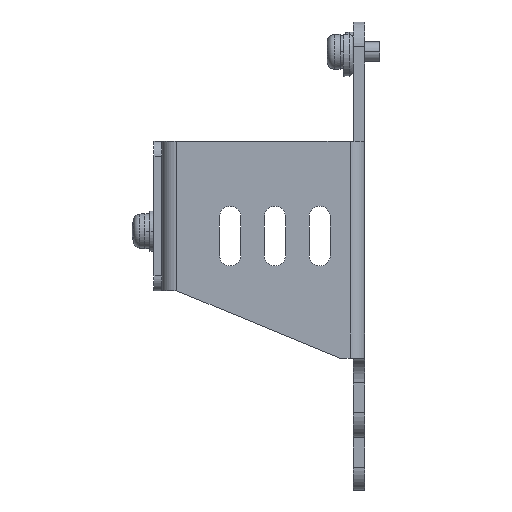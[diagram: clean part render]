
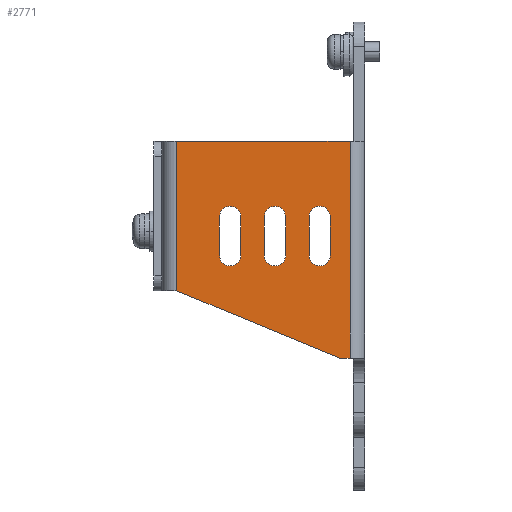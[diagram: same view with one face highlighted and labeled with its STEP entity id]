
A CAD part, left-side view. The second image highlights one B-rep face of the part: STEP entity #2771.
In plain terms, the highlighted planar face has unit normal (-1, 0, 0).
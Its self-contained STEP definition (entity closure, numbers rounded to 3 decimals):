
#509=DIRECTION('',(0.,0.,1.));
#510=VECTOR('',#509,43.5);
#511=CARTESIAN_POINT('',(-68.,2.9,26.5));
#512=LINE('',#511,#510);
#527=DIRECTION('',(0.,-1.,0.));
#528=VECTOR('',#527,2.1);
#529=CARTESIAN_POINT('',(-68.,5.,26.5));
#530=LINE('',#529,#528);
#531=DIRECTION('',(0.,-0.924,-0.382));
#532=VECTOR('',#531,35.377);
#533=CARTESIAN_POINT('',(-68.,37.7,40.));
#534=LINE('',#533,#532);
#535=DIRECTION('',(0.,1.,0.));
#536=VECTOR('',#535,0.1);
#537=CARTESIAN_POINT('',(-68.,37.7,40.));
#538=LINE('',#537,#536);
#539=CARTESIAN_POINT('',(-68.,9.,47.15));
#540=DIRECTION('',(-1.,0.,0.));
#541=DIRECTION('',(0.,1.,0.));
#542=AXIS2_PLACEMENT_3D('',#539,#540,#541);
#544=DIRECTION('',(0.,0.,-1.));
#545=VECTOR('',#544,7.7);
#546=CARTESIAN_POINT('',(-68.,6.85,54.85));
#547=LINE('',#546,#545);
#548=CARTESIAN_POINT('',(-68.,9.,54.85));
#549=DIRECTION('',(-1.,0.,0.));
#550=DIRECTION('',(0.,-1.,0.));
#551=AXIS2_PLACEMENT_3D('',#548,#549,#550);
#553=DIRECTION('',(0.,0.,1.));
#554=VECTOR('',#553,7.7);
#555=CARTESIAN_POINT('',(-68.,11.15,47.15));
#556=LINE('',#555,#554);
#557=CARTESIAN_POINT('',(-68.,18.,47.15));
#558=DIRECTION('',(-1.,0.,0.));
#559=DIRECTION('',(0.,1.,0.));
#560=AXIS2_PLACEMENT_3D('',#557,#558,#559);
#562=DIRECTION('',(0.,0.,-1.));
#563=VECTOR('',#562,7.7);
#564=CARTESIAN_POINT('',(-68.,15.85,54.85));
#565=LINE('',#564,#563);
#566=CARTESIAN_POINT('',(-68.,18.,54.85));
#567=DIRECTION('',(-1.,0.,0.));
#568=DIRECTION('',(0.,-1.,0.));
#569=AXIS2_PLACEMENT_3D('',#566,#567,#568);
#571=DIRECTION('',(0.,0.,1.));
#572=VECTOR('',#571,7.7);
#573=CARTESIAN_POINT('',(-68.,20.15,47.15));
#574=LINE('',#573,#572);
#575=CARTESIAN_POINT('',(-68.,27.,47.15));
#576=DIRECTION('',(-1.,0.,0.));
#577=DIRECTION('',(0.,1.,0.));
#578=AXIS2_PLACEMENT_3D('',#575,#576,#577);
#580=DIRECTION('',(0.,0.,-1.));
#581=VECTOR('',#580,7.7);
#582=CARTESIAN_POINT('',(-68.,24.85,54.85));
#583=LINE('',#582,#581);
#584=CARTESIAN_POINT('',(-68.,27.,54.85));
#585=DIRECTION('',(-1.,0.,0.));
#586=DIRECTION('',(0.,-1.,0.));
#587=AXIS2_PLACEMENT_3D('',#584,#585,#586);
#589=DIRECTION('',(0.,0.,1.));
#590=VECTOR('',#589,7.7);
#591=CARTESIAN_POINT('',(-68.,29.15,47.15));
#592=LINE('',#591,#590);
#593=DIRECTION('',(0.,1.,0.));
#594=VECTOR('',#593,34.9);
#595=CARTESIAN_POINT('',(-68.,2.9,70.));
#596=LINE('',#595,#594);
#618=DIRECTION('',(0.,0.,1.));
#619=VECTOR('',#618,30.);
#620=CARTESIAN_POINT('',(-68.,37.8,40.));
#621=LINE('',#620,#619);
#1805=CARTESIAN_POINT('',(-68.,37.7,40.));
#1807=VERTEX_POINT('',#1805);
#1849=CARTESIAN_POINT('',(-68.,11.15,47.15));
#1850=CARTESIAN_POINT('',(-68.,6.85,47.15));
#1851=VERTEX_POINT('',#1849);
#1852=VERTEX_POINT('',#1850);
#1853=CARTESIAN_POINT('',(-68.,11.15,54.85));
#1854=VERTEX_POINT('',#1853);
#1855=CARTESIAN_POINT('',(-68.,6.85,54.85));
#1856=VERTEX_POINT('',#1855);
#1865=CARTESIAN_POINT('',(-68.,20.15,47.15));
#1866=CARTESIAN_POINT('',(-68.,15.85,47.15));
#1867=VERTEX_POINT('',#1865);
#1868=VERTEX_POINT('',#1866);
#1869=CARTESIAN_POINT('',(-68.,20.15,54.85));
#1870=VERTEX_POINT('',#1869);
#1871=CARTESIAN_POINT('',(-68.,15.85,54.85));
#1872=VERTEX_POINT('',#1871);
#1881=CARTESIAN_POINT('',(-68.,5.,26.5));
#1882=CARTESIAN_POINT('',(-68.,2.9,26.5));
#1883=VERTEX_POINT('',#1881);
#1884=VERTEX_POINT('',#1882);
#1889=CARTESIAN_POINT('',(-68.,2.9,70.));
#1890=VERTEX_POINT('',#1889);
#1901=CARTESIAN_POINT('',(-68.,29.15,47.15));
#1902=CARTESIAN_POINT('',(-68.,24.85,47.15));
#1903=VERTEX_POINT('',#1901);
#1904=VERTEX_POINT('',#1902);
#1905=CARTESIAN_POINT('',(-68.,29.15,54.85));
#1906=VERTEX_POINT('',#1905);
#1907=CARTESIAN_POINT('',(-68.,24.85,54.85));
#1908=VERTEX_POINT('',#1907);
#1977=CARTESIAN_POINT('',(-68.,37.8,70.));
#1978=VERTEX_POINT('',#1977);
#1979=CARTESIAN_POINT('',(-68.,37.8,40.));
#1980=VERTEX_POINT('',#1979);
#2723=CARTESIAN_POINT('',(-68.,0.,42.538));
#2724=DIRECTION('',(-1.,0.,0.));
#2725=DIRECTION('',(0.,0.,1.));
#2726=AXIS2_PLACEMENT_3D('',#2723,#2724,#2725);
#2727=PLANE('',#2726);
#2729=ORIENTED_EDGE('',*,*,#2728,.F.);
#2730=ORIENTED_EDGE('',*,*,#2714,.F.);
#2732=ORIENTED_EDGE('',*,*,#2731,.F.);
#2734=ORIENTED_EDGE('',*,*,#2733,.F.);
#2736=ORIENTED_EDGE('',*,*,#2735,.T.);
#2738=ORIENTED_EDGE('',*,*,#2737,.T.);
#2739=EDGE_LOOP('',(#2729,#2730,#2732,#2734,#2736,#2738));
#2740=FACE_OUTER_BOUND('',#2739,.F.);
#2742=ORIENTED_EDGE('',*,*,#2741,.T.);
#2744=ORIENTED_EDGE('',*,*,#2743,.F.);
#2746=ORIENTED_EDGE('',*,*,#2745,.T.);
#2748=ORIENTED_EDGE('',*,*,#2747,.F.);
#2749=EDGE_LOOP('',(#2742,#2744,#2746,#2748));
#2750=FACE_BOUND('',#2749,.F.);
#2752=ORIENTED_EDGE('',*,*,#2751,.T.);
#2754=ORIENTED_EDGE('',*,*,#2753,.F.);
#2756=ORIENTED_EDGE('',*,*,#2755,.T.);
#2758=ORIENTED_EDGE('',*,*,#2757,.F.);
#2759=EDGE_LOOP('',(#2752,#2754,#2756,#2758));
#2760=FACE_BOUND('',#2759,.F.);
#2762=ORIENTED_EDGE('',*,*,#2761,.T.);
#2764=ORIENTED_EDGE('',*,*,#2763,.F.);
#2766=ORIENTED_EDGE('',*,*,#2765,.T.);
#2768=ORIENTED_EDGE('',*,*,#2767,.F.);
#2769=EDGE_LOOP('',(#2762,#2764,#2766,#2768));
#2770=FACE_BOUND('',#2769,.F.);
#2771=ADVANCED_FACE('',(#2740,#2750,#2760,#2770),#2727,.T.);
#543=CIRCLE('',#542,2.15);
#552=CIRCLE('',#551,2.15);
#561=CIRCLE('',#560,2.15);
#570=CIRCLE('',#569,2.15);
#579=CIRCLE('',#578,2.15);
#588=CIRCLE('',#587,2.15);
#2714=EDGE_CURVE('',#1884,#1890,#512,.T.);
#2728=EDGE_CURVE('',#1890,#1978,#596,.T.);
#2731=EDGE_CURVE('',#1883,#1884,#530,.T.);
#2733=EDGE_CURVE('',#1807,#1883,#534,.T.);
#2735=EDGE_CURVE('',#1807,#1980,#538,.T.);
#2737=EDGE_CURVE('',#1980,#1978,#621,.T.);
#2741=EDGE_CURVE('',#1851,#1852,#543,.T.);
#2743=EDGE_CURVE('',#1856,#1852,#547,.T.);
#2745=EDGE_CURVE('',#1856,#1854,#552,.T.);
#2747=EDGE_CURVE('',#1851,#1854,#556,.T.);
#2751=EDGE_CURVE('',#1867,#1868,#561,.T.);
#2753=EDGE_CURVE('',#1872,#1868,#565,.T.);
#2755=EDGE_CURVE('',#1872,#1870,#570,.T.);
#2757=EDGE_CURVE('',#1867,#1870,#574,.T.);
#2761=EDGE_CURVE('',#1903,#1904,#579,.T.);
#2763=EDGE_CURVE('',#1908,#1904,#583,.T.);
#2765=EDGE_CURVE('',#1908,#1906,#588,.T.);
#2767=EDGE_CURVE('',#1903,#1906,#592,.T.);
